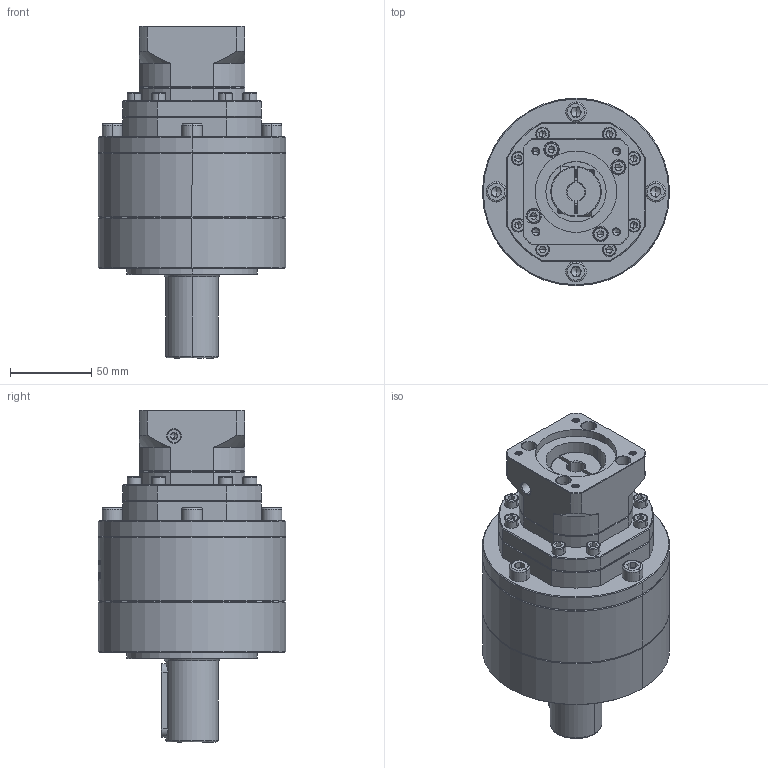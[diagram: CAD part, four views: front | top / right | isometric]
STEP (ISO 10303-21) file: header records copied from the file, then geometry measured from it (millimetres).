
FILE_DESCRIPTION (( 'STEP AP214' ), '1' );
FILE_NAME ('ZE120A-D32-L3-11-50-70-M5.step', '2023-03-09T15:34:35', ( '' ), ( 'Microsoft' ), 'SwSTEP 2.0', 'SolidWorks 2016', '' );
FILE_SCHEMA (( 'AUTOMOTIVE_DESIGN' ));
Length unit declared in the file: millimetre
Products named in the file (1): ZE120A-D32-L3-11-50-70-M5
Bounding box: 115 x 115 x 204 mm (x, y, z)
Volume: 1166931.3 mm3; surface area: 112225.4 mm2
Topology: 7 solids, 7 shells, 2167 faces, 5731 edges, 3666 vertices
Faces by surface type: plane 981, cylinder 521, bspline 349, cone 294, torus 22
Entity records: 121392 total; most frequent: CARTESIAN_POINT 48443, ORIENTED_EDGE 11338, DIRECTION 8724, EDGE_CURVE 5669, VERTEX_POINT 3666, VECTOR 3038, LINE 3038, AXIS2_PLACEMENT_3D 2843
